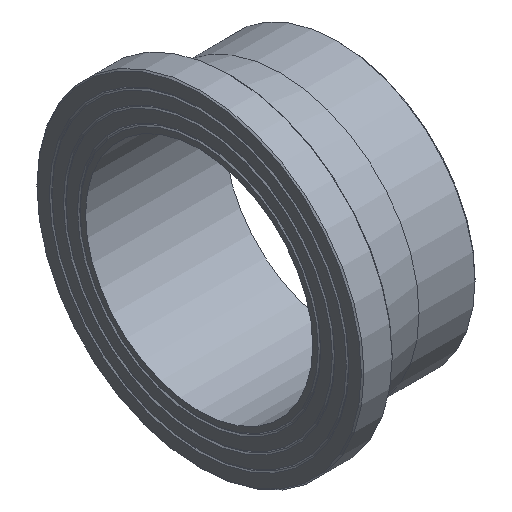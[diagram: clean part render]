
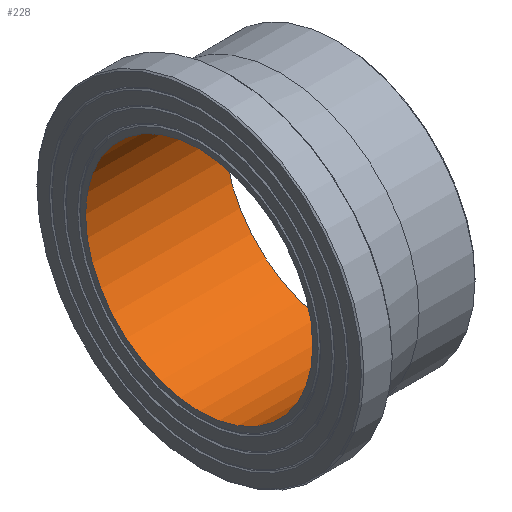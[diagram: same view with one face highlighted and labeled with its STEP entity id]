
A CAD part, isometric view. The second image highlights one B-rep face of the part: STEP entity #228.
In plain terms, the highlighted cylindrical face has radius 128.9 mm (diameter 257.8 mm), a full revolution.
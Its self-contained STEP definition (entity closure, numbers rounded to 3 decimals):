
#33=CYLINDRICAL_SURFACE('',#274,128.9);
#50=ORIENTED_EDGE('',*,*,#79,.F.);
#51=ORIENTED_EDGE('',*,*,#76,.T.);
#76=EDGE_CURVE('',#96,#96,#116,.T.);
#79=EDGE_CURVE('',#99,#99,#119,.T.);
#96=VERTEX_POINT('',#383);
#99=VERTEX_POINT('',#390);
#116=CIRCLE('',#257,128.9);
#119=CIRCLE('',#261,128.9);
#150=EDGE_LOOP('',(#50));
#151=EDGE_LOOP('',(#51));
#190=FACE_BOUND('',#150,.T.);
#191=FACE_BOUND('',#151,.T.);
#228=ADVANCED_FACE('',(#190,#191),#33,.F.);
#257=AXIS2_PLACEMENT_3D('',#382,#303,#304);
#261=AXIS2_PLACEMENT_3D('',#389,#311,#312);
#274=AXIS2_PLACEMENT_3D('',#410,#337,#338);
#303=DIRECTION('',(-1.,0.,0.));
#304=DIRECTION('',(0.,0.,1.));
#311=DIRECTION('',(-1.,0.,0.));
#312=DIRECTION('',(0.,0.,1.));
#337=DIRECTION('',(-1.,0.,0.));
#338=DIRECTION('',(0.,0.,1.));
#382=CARTESIAN_POINT('',(0.,0.,0.));
#383=CARTESIAN_POINT('',(0.,0.,128.9));
#389=CARTESIAN_POINT('',(158.,0.,0.));
#390=CARTESIAN_POINT('',(158.,0.,128.9));
#410=CARTESIAN_POINT('',(60.,0.,0.));
